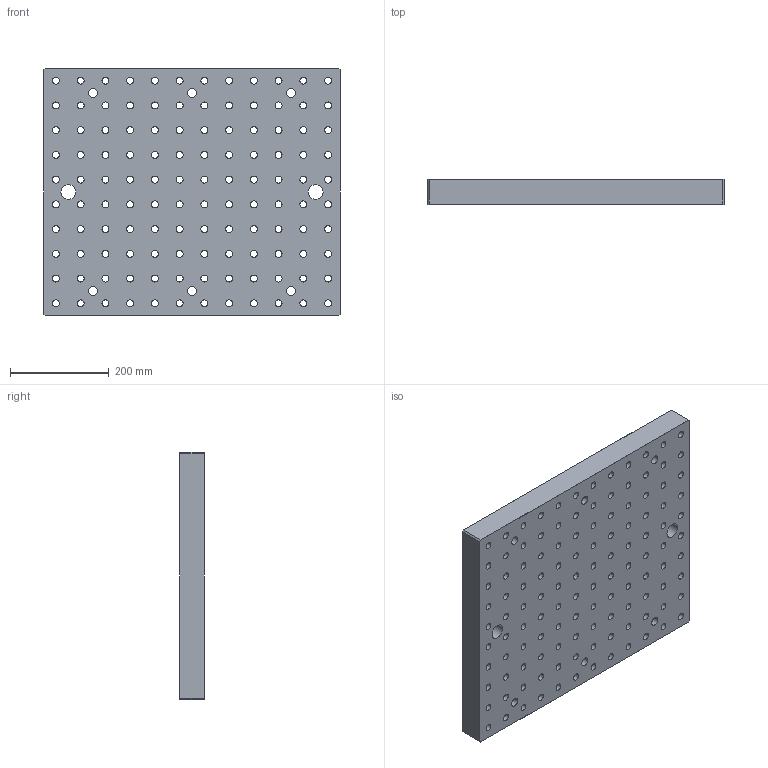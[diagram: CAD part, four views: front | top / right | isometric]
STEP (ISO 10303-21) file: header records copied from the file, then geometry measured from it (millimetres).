
FILE_DESCRIPTION((''),'2;1');
FILE_NAME('FG_WH_BASPL_RCG16NP002','2026-05-18T17:08:40',('Admin'),(''),'CREO PARAMETRIC BY PTC INC, 2025010','CREO PARAMETRIC BY PTC INC, 2025010','');
FILE_SCHEMA(('CONFIG_CONTROL_DESIGN'));
Length unit declared in the file: millimetre
Products named in the file (1): FG_WH_BASPL_RCG16NP002
Bounding box: 600 x 50 x 500 mm (x, y, z)
Volume: 13805289.5 mm3; surface area: 1179764.6 mm2
Topology: 1 solids, 121 shells, 1036 faces, 2572 edges, 1784 vertices
Faces by surface type: cylinder 748, plane 272, cone 16
Entity records: 32311 total; most frequent: DIRECTION 6398, CARTESIAN_POINT 5393, ORIENTED_EDGE 4664, AXIS2_PLACEMENT_3D 2789, EDGE_CURVE 2572, VERTEX_POINT 1784, CIRCLE 1752, EDGE_LOOP 1538
